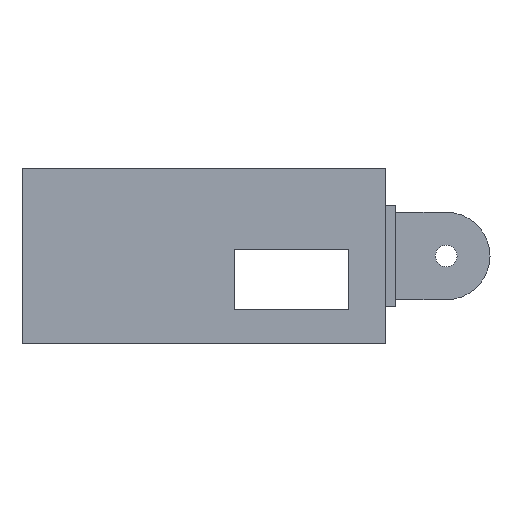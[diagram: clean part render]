
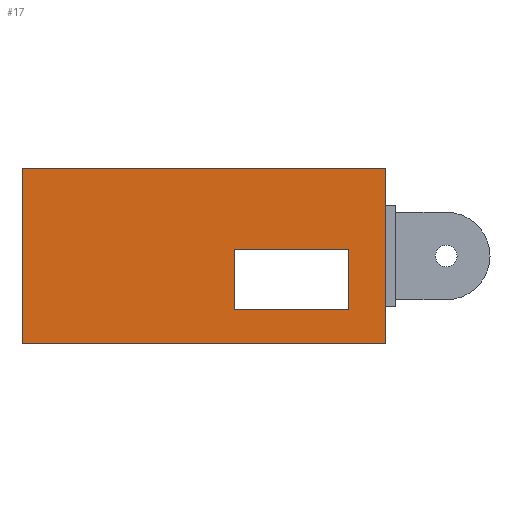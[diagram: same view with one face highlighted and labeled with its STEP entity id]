
A CAD part, left-side view. The second image highlights one B-rep face of the part: STEP entity #17.
In plain terms, the highlighted planar face has unit normal (-1, 0, 0).
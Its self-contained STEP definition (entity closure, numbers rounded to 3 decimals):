
#17 = ADVANCED_FACE('',(#18,#137),#32,.F.);
#18 = FACE_BOUND('',#19,.F.);
#19 = EDGE_LOOP('',(#20,#55,#83,#111));
#20 = ORIENTED_EDGE('',*,*,#21,.F.);
#21 = EDGE_CURVE('',#22,#24,#26,.T.);
#22 = VERTEX_POINT('',#23);
#23 = CARTESIAN_POINT('',(0.,0.,0.));
#24 = VERTEX_POINT('',#25);
#25 = CARTESIAN_POINT('',(0.,0.,52.));
#26 = SURFACE_CURVE('',#27,(#31,#43),.PCURVE_S1.);
#27 = LINE('',#28,#29);
#28 = CARTESIAN_POINT('',(0.,0.,0.));
#29 = VECTOR('',#30,1.);
#30 = DIRECTION('',(0.,0.,1.));
#31 = PCURVE('',#32,#37);
#32 = PLANE('',#33);
#33 = AXIS2_PLACEMENT_3D('',#34,#35,#36);
#34 = CARTESIAN_POINT('',(0.,0.,0.));
#35 = DIRECTION('',(1.,0.,0.));
#36 = DIRECTION('',(0.,0.,1.));
#37 = DEFINITIONAL_REPRESENTATION('',(#38),#42);
#38 = LINE('',#39,#40);
#39 = CARTESIAN_POINT('',(0.,0.));
#40 = VECTOR('',#41,1.);
#41 = DIRECTION('',(1.,0.));
#42 = ( GEOMETRIC_REPRESENTATION_CONTEXT(2) 
PARAMETRIC_REPRESENTATION_CONTEXT() REPRESENTATION_CONTEXT('2D SPACE',''
  ) );
#43 = PCURVE('',#44,#49);
#44 = PLANE('',#45);
#45 = AXIS2_PLACEMENT_3D('',#46,#47,#48);
#46 = CARTESIAN_POINT('',(0.,0.,0.));
#47 = DIRECTION('',(0.,1.,0.));
#48 = DIRECTION('',(0.,0.,1.));
#49 = DEFINITIONAL_REPRESENTATION('',(#50),#54);
#50 = LINE('',#51,#52);
#51 = CARTESIAN_POINT('',(0.,0.));
#52 = VECTOR('',#53,1.);
#53 = DIRECTION('',(1.,0.));
#54 = ( GEOMETRIC_REPRESENTATION_CONTEXT(2) 
PARAMETRIC_REPRESENTATION_CONTEXT() REPRESENTATION_CONTEXT('2D SPACE',''
  ) );
#55 = ORIENTED_EDGE('',*,*,#56,.T.);
#56 = EDGE_CURVE('',#22,#57,#59,.T.);
#57 = VERTEX_POINT('',#58);
#58 = CARTESIAN_POINT('',(0.,108.,0.));
#59 = SURFACE_CURVE('',#60,(#64,#71),.PCURVE_S1.);
#60 = LINE('',#61,#62);
#61 = CARTESIAN_POINT('',(0.,0.,0.));
#62 = VECTOR('',#63,1.);
#63 = DIRECTION('',(0.,1.,0.));
#64 = PCURVE('',#32,#65);
#65 = DEFINITIONAL_REPRESENTATION('',(#66),#70);
#66 = LINE('',#67,#68);
#67 = CARTESIAN_POINT('',(0.,0.));
#68 = VECTOR('',#69,1.);
#69 = DIRECTION('',(0.,-1.));
#70 = ( GEOMETRIC_REPRESENTATION_CONTEXT(2) 
PARAMETRIC_REPRESENTATION_CONTEXT() REPRESENTATION_CONTEXT('2D SPACE',''
  ) );
#71 = PCURVE('',#72,#77);
#72 = PLANE('',#73);
#73 = AXIS2_PLACEMENT_3D('',#74,#75,#76);
#74 = CARTESIAN_POINT('',(0.,0.,0.));
#75 = DIRECTION('',(0.,0.,1.));
#76 = DIRECTION('',(1.,0.,0.));
#77 = DEFINITIONAL_REPRESENTATION('',(#78),#82);
#78 = LINE('',#79,#80);
#79 = CARTESIAN_POINT('',(0.,0.));
#80 = VECTOR('',#81,1.);
#81 = DIRECTION('',(0.,1.));
#82 = ( GEOMETRIC_REPRESENTATION_CONTEXT(2) 
PARAMETRIC_REPRESENTATION_CONTEXT() REPRESENTATION_CONTEXT('2D SPACE',''
  ) );
#83 = ORIENTED_EDGE('',*,*,#84,.F.);
#84 = EDGE_CURVE('',#85,#57,#87,.T.);
#85 = VERTEX_POINT('',#86);
#86 = CARTESIAN_POINT('',(0.,108.,52.));
#87 = SURFACE_CURVE('',#88,(#92,#99),.PCURVE_S1.);
#88 = LINE('',#89,#90);
#89 = CARTESIAN_POINT('',(0.,108.,52.));
#90 = VECTOR('',#91,1.);
#91 = DIRECTION('',(0.,0.,-1.));
#92 = PCURVE('',#32,#93);
#93 = DEFINITIONAL_REPRESENTATION('',(#94),#98);
#94 = LINE('',#95,#96);
#95 = CARTESIAN_POINT('',(52.,-108.));
#96 = VECTOR('',#97,1.);
#97 = DIRECTION('',(-1.,0.));
#98 = ( GEOMETRIC_REPRESENTATION_CONTEXT(2) 
PARAMETRIC_REPRESENTATION_CONTEXT() REPRESENTATION_CONTEXT('2D SPACE',''
  ) );
#99 = PCURVE('',#100,#105);
#100 = PLANE('',#101);
#101 = AXIS2_PLACEMENT_3D('',#102,#103,#104);
#102 = CARTESIAN_POINT('',(0.,108.,0.));
#103 = DIRECTION('',(0.,1.,0.));
#104 = DIRECTION('',(0.,0.,1.));
#105 = DEFINITIONAL_REPRESENTATION('',(#106),#110);
#106 = LINE('',#107,#108);
#107 = CARTESIAN_POINT('',(52.,0.));
#108 = VECTOR('',#109,1.);
#109 = DIRECTION('',(-1.,0.));
#110 = ( GEOMETRIC_REPRESENTATION_CONTEXT(2) 
PARAMETRIC_REPRESENTATION_CONTEXT() REPRESENTATION_CONTEXT('2D SPACE',''
  ) );
#111 = ORIENTED_EDGE('',*,*,#112,.F.);
#112 = EDGE_CURVE('',#24,#85,#113,.T.);
#113 = SURFACE_CURVE('',#114,(#118,#125),.PCURVE_S1.);
#114 = LINE('',#115,#116);
#115 = CARTESIAN_POINT('',(0.,0.,52.));
#116 = VECTOR('',#117,1.);
#117 = DIRECTION('',(0.,1.,0.));
#118 = PCURVE('',#32,#119);
#119 = DEFINITIONAL_REPRESENTATION('',(#120),#124);
#120 = LINE('',#121,#122);
#121 = CARTESIAN_POINT('',(52.,0.));
#122 = VECTOR('',#123,1.);
#123 = DIRECTION('',(0.,-1.));
#124 = ( GEOMETRIC_REPRESENTATION_CONTEXT(2) 
PARAMETRIC_REPRESENTATION_CONTEXT() REPRESENTATION_CONTEXT('2D SPACE',''
  ) );
#125 = PCURVE('',#126,#131);
#126 = PLANE('',#127);
#127 = AXIS2_PLACEMENT_3D('',#128,#129,#130);
#128 = CARTESIAN_POINT('',(0.,0.,52.));
#129 = DIRECTION('',(0.,0.,1.));
#130 = DIRECTION('',(1.,0.,0.));
#131 = DEFINITIONAL_REPRESENTATION('',(#132),#136);
#132 = LINE('',#133,#134);
#133 = CARTESIAN_POINT('',(0.,0.));
#134 = VECTOR('',#135,1.);
#135 = DIRECTION('',(0.,1.));
#136 = ( GEOMETRIC_REPRESENTATION_CONTEXT(2) 
PARAMETRIC_REPRESENTATION_CONTEXT() REPRESENTATION_CONTEXT('2D SPACE',''
  ) );
#137 = FACE_BOUND('',#138,.F.);
#138 = EDGE_LOOP('',(#139,#168,#195,#222));
#139 = ORIENTED_EDGE('',*,*,#140,.T.);
#140 = EDGE_CURVE('',#141,#143,#145,.T.);
#141 = VERTEX_POINT('',#142);
#142 = CARTESIAN_POINT('',(0.,11.,10.));
#143 = VERTEX_POINT('',#144);
#144 = CARTESIAN_POINT('',(0.,11.,28.));
#145 = SURFACE_CURVE('',#146,(#150,#157),.PCURVE_S1.);
#146 = LINE('',#147,#148);
#147 = CARTESIAN_POINT('',(0.,11.,6.5));
#148 = VECTOR('',#149,1.);
#149 = DIRECTION('',(0.,0.,1.));
#150 = PCURVE('',#32,#151);
#151 = DEFINITIONAL_REPRESENTATION('',(#152),#156);
#152 = LINE('',#153,#154);
#153 = CARTESIAN_POINT('',(6.5,-11.));
#154 = VECTOR('',#155,1.);
#155 = DIRECTION('',(1.,0.));
#156 = ( GEOMETRIC_REPRESENTATION_CONTEXT(2) 
PARAMETRIC_REPRESENTATION_CONTEXT() REPRESENTATION_CONTEXT('2D SPACE',''
  ) );
#157 = PCURVE('',#158,#163);
#158 = PLANE('',#159);
#159 = AXIS2_PLACEMENT_3D('',#160,#161,#162);
#160 = CARTESIAN_POINT('',(-1.,11.,10.));
#161 = DIRECTION('',(0.,1.,0.));
#162 = DIRECTION('',(0.,0.,1.));
#163 = DEFINITIONAL_REPRESENTATION('',(#164),#167);
#164 = B_SPLINE_CURVE_WITH_KNOTS('',1,(#165,#166),.UNSPECIFIED.,.F.,.F.,
  (2,2),(3.5,21.5),.PIECEWISE_BEZIER_KNOTS.);
#165 = CARTESIAN_POINT('',(0.,1.));
#166 = CARTESIAN_POINT('',(18.,1.));
#167 = ( GEOMETRIC_REPRESENTATION_CONTEXT(2) 
PARAMETRIC_REPRESENTATION_CONTEXT() REPRESENTATION_CONTEXT('2D SPACE',''
  ) );
#168 = ORIENTED_EDGE('',*,*,#169,.F.);
#169 = EDGE_CURVE('',#170,#143,#172,.T.);
#170 = VERTEX_POINT('',#171);
#171 = CARTESIAN_POINT('',(0.,45.,28.));
#172 = SURFACE_CURVE('',#173,(#177,#184),.PCURVE_S1.);
#173 = LINE('',#174,#175);
#174 = CARTESIAN_POINT('',(0.,5.5,28.));
#175 = VECTOR('',#176,1.);
#176 = DIRECTION('',(0.,-1.,0.));
#177 = PCURVE('',#32,#178);
#178 = DEFINITIONAL_REPRESENTATION('',(#179),#183);
#179 = LINE('',#180,#181);
#180 = CARTESIAN_POINT('',(28.,-5.5));
#181 = VECTOR('',#182,1.);
#182 = DIRECTION('',(0.,1.));
#183 = ( GEOMETRIC_REPRESENTATION_CONTEXT(2) 
PARAMETRIC_REPRESENTATION_CONTEXT() REPRESENTATION_CONTEXT('2D SPACE',''
  ) );
#184 = PCURVE('',#185,#190);
#185 = PLANE('',#186);
#186 = AXIS2_PLACEMENT_3D('',#187,#188,#189);
#187 = CARTESIAN_POINT('',(-1.,11.,28.));
#188 = DIRECTION('',(0.,0.,1.));
#189 = DIRECTION('',(1.,0.,0.));
#190 = DEFINITIONAL_REPRESENTATION('',(#191),#194);
#191 = B_SPLINE_CURVE_WITH_KNOTS('',1,(#192,#193),.UNSPECIFIED.,.F.,.F.,
  (2,2),(-39.5,-5.5),.PIECEWISE_BEZIER_KNOTS.);
#192 = CARTESIAN_POINT('',(1.,34.));
#193 = CARTESIAN_POINT('',(1.,0.));
#194 = ( GEOMETRIC_REPRESENTATION_CONTEXT(2) 
PARAMETRIC_REPRESENTATION_CONTEXT() REPRESENTATION_CONTEXT('2D SPACE',''
  ) );
#195 = ORIENTED_EDGE('',*,*,#196,.F.);
#196 = EDGE_CURVE('',#197,#170,#199,.T.);
#197 = VERTEX_POINT('',#198);
#198 = CARTESIAN_POINT('',(0.,45.,10.));
#199 = SURFACE_CURVE('',#200,(#204,#211),.PCURVE_S1.);
#200 = LINE('',#201,#202);
#201 = CARTESIAN_POINT('',(0.,45.,6.5));
#202 = VECTOR('',#203,1.);
#203 = DIRECTION('',(0.,0.,1.));
#204 = PCURVE('',#32,#205);
#205 = DEFINITIONAL_REPRESENTATION('',(#206),#210);
#206 = LINE('',#207,#208);
#207 = CARTESIAN_POINT('',(6.5,-45.));
#208 = VECTOR('',#209,1.);
#209 = DIRECTION('',(1.,0.));
#210 = ( GEOMETRIC_REPRESENTATION_CONTEXT(2) 
PARAMETRIC_REPRESENTATION_CONTEXT() REPRESENTATION_CONTEXT('2D SPACE',''
  ) );
#211 = PCURVE('',#212,#217);
#212 = PLANE('',#213);
#213 = AXIS2_PLACEMENT_3D('',#214,#215,#216);
#214 = CARTESIAN_POINT('',(-1.,45.,10.));
#215 = DIRECTION('',(0.,1.,0.));
#216 = DIRECTION('',(0.,0.,1.));
#217 = DEFINITIONAL_REPRESENTATION('',(#218),#221);
#218 = B_SPLINE_CURVE_WITH_KNOTS('',1,(#219,#220),.UNSPECIFIED.,.F.,.F.,
  (2,2),(3.5,21.5),.PIECEWISE_BEZIER_KNOTS.);
#219 = CARTESIAN_POINT('',(0.,1.));
#220 = CARTESIAN_POINT('',(18.,1.));
#221 = ( GEOMETRIC_REPRESENTATION_CONTEXT(2) 
PARAMETRIC_REPRESENTATION_CONTEXT() REPRESENTATION_CONTEXT('2D SPACE',''
  ) );
#222 = ORIENTED_EDGE('',*,*,#223,.T.);
#223 = EDGE_CURVE('',#197,#141,#224,.T.);
#224 = SURFACE_CURVE('',#225,(#229,#236),.PCURVE_S1.);
#225 = LINE('',#226,#227);
#226 = CARTESIAN_POINT('',(0.,5.5,10.));
#227 = VECTOR('',#228,1.);
#228 = DIRECTION('',(0.,-1.,0.));
#229 = PCURVE('',#32,#230);
#230 = DEFINITIONAL_REPRESENTATION('',(#231),#235);
#231 = LINE('',#232,#233);
#232 = CARTESIAN_POINT('',(10.,-5.5));
#233 = VECTOR('',#234,1.);
#234 = DIRECTION('',(0.,1.));
#235 = ( GEOMETRIC_REPRESENTATION_CONTEXT(2) 
PARAMETRIC_REPRESENTATION_CONTEXT() REPRESENTATION_CONTEXT('2D SPACE',''
  ) );
#236 = PCURVE('',#237,#242);
#237 = PLANE('',#238);
#238 = AXIS2_PLACEMENT_3D('',#239,#240,#241);
#239 = CARTESIAN_POINT('',(-1.,11.,10.));
#240 = DIRECTION('',(0.,0.,1.));
#241 = DIRECTION('',(1.,0.,0.));
#242 = DEFINITIONAL_REPRESENTATION('',(#243),#246);
#243 = B_SPLINE_CURVE_WITH_KNOTS('',1,(#244,#245),.UNSPECIFIED.,.F.,.F.,
  (2,2),(-39.5,-5.5),.PIECEWISE_BEZIER_KNOTS.);
#244 = CARTESIAN_POINT('',(1.,34.));
#245 = CARTESIAN_POINT('',(1.,0.));
#246 = ( GEOMETRIC_REPRESENTATION_CONTEXT(2) 
PARAMETRIC_REPRESENTATION_CONTEXT() REPRESENTATION_CONTEXT('2D SPACE',''
  ) );
